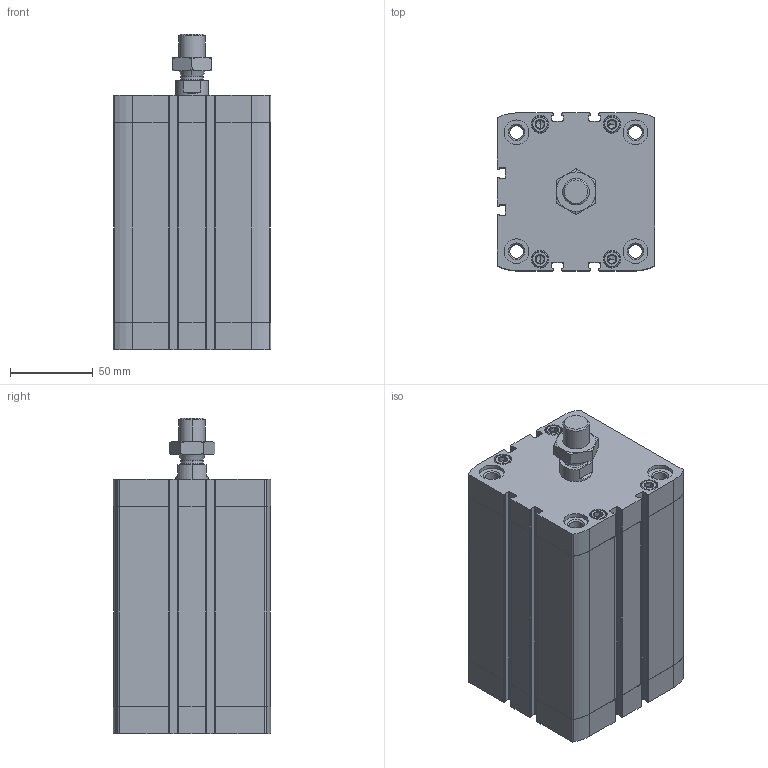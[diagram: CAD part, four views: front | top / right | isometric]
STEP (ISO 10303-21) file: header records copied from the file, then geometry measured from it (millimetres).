
FILE_DESCRIPTION (( 'STEP AP203' ), '1' );
FILE_NAME ('CCN80-100M.STEP', '2017-04-05T20:25:50', ( '' ), ( '' ), 'SwSTEP 2.0', 'SolidWorks 2016', '' );
FILE_SCHEMA (( 'CONFIG_CONTROL_DESIGN' ));
Length unit declared in the file: millimetre
Products named in the file (4): CCN-100---(Z); CCN-100_(KS); _DIN-439-B - M16x1.5(F); CCN80-100M
Assembly tree (3 placements, depth 2):
  CCN80-100M
    CCN-100---(Z)
    CCN-100_(KS)
    _DIN-439-B - M16x1.5(F)
Bounding box: 95.5 x 95.5 x 190.9 mm (x, y, z)
Volume: 853311.5 mm3; surface area: 173538.2 mm2
Topology: 3 solids, 3 shells, 507 faces, 1278 edges, 808 vertices
Faces by surface type: plane 235, cylinder 188, cone 80, bspline 4
Entity records: 16086 total; most frequent: CARTESIAN_POINT 3295, DIRECTION 2704, ORIENTED_EDGE 2524, EDGE_CURVE 1262, AXIS2_PLACEMENT_3D 1013, VERTEX_POINT 808, LINE 678, VECTOR 678
